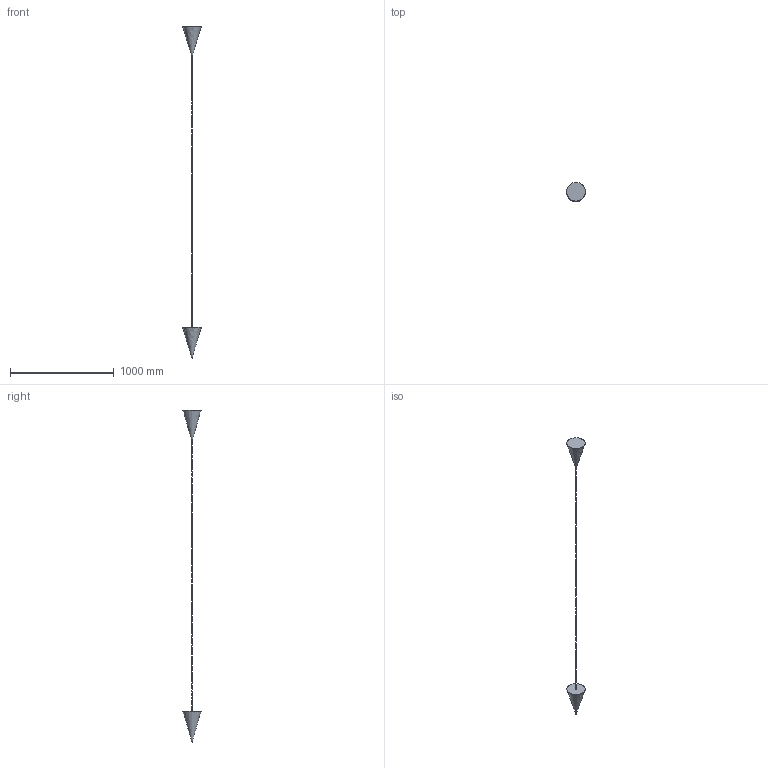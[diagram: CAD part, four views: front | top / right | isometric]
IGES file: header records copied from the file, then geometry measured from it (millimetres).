
Global section: file name: /Users/magnolia/Downloads/PEAKS/PEAKS UP/PEAKS 1 UP/PEAKS-1-up.igs; native system: Rhinoceros ( Aug  9 2023 ); preprocessor: Trout Lake IGES 012 Aug  9 2023; date: 230821.160759; units: millimetre
Bounding box: 180 x 180 x 3200 mm (x, y, z)
Surface area: 264405 mm2 (no closed solid volume)
Topology: 0 solids, 0 shells, 7 faces, 38 edges, 31 vertices
Faces by surface type: bspline 7
